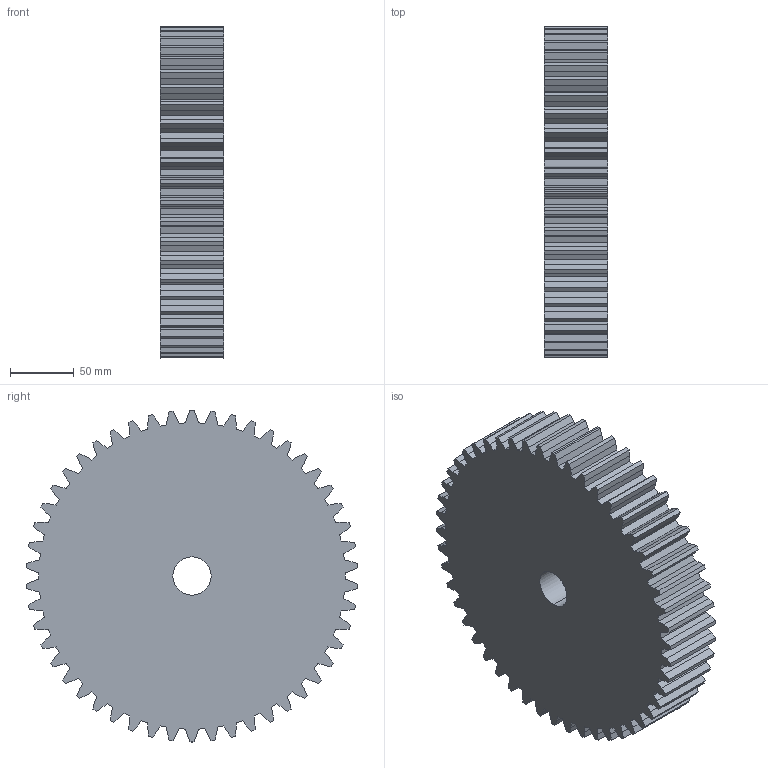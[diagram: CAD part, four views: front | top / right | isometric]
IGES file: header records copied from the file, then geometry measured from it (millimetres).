
Start section: SolidWorks IGES file using analytic representation for surfaces
Global section: file name: C:\Users\Honza\Desktop\Matis (Hotove)\Èelní ozubená kola\MODUL 5\CM 32050.IGS; native system: SolidWorks 2010; preprocessor: SolidWorks 2010; author: Honza; date: 130923.122621; units: millimetre
Bounding box: 50 x 259.67 x 260 mm (x, y, z)
Surface area: 174783.9 mm2 (no closed solid volume)
Topology: 0 solids, 0 shells, 305 faces, 1985 edges, 1985 vertices
Faces by surface type: bspline 202, revolution 103
